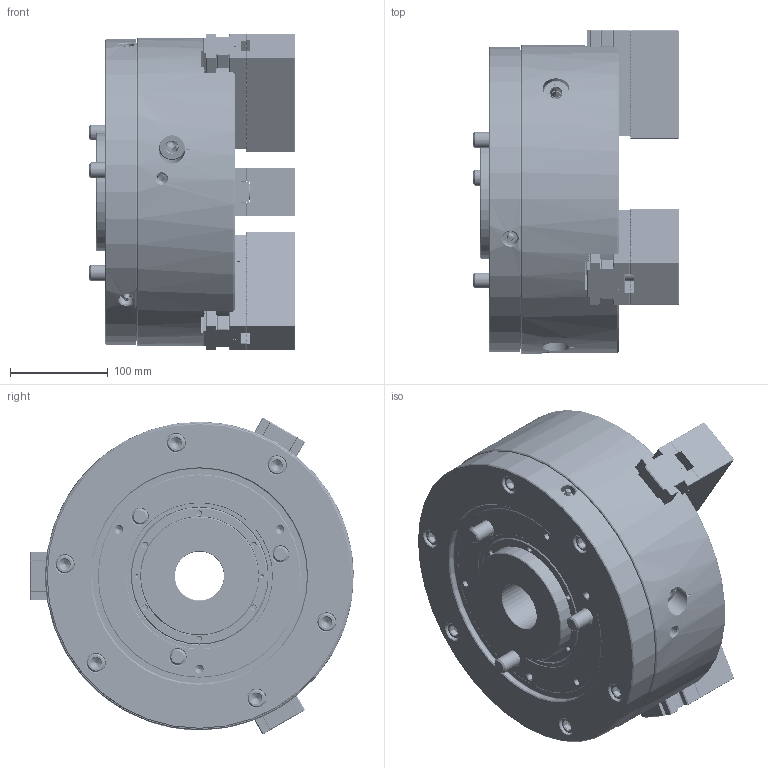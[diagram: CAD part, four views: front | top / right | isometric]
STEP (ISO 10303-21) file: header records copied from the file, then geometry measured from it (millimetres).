
FILE_DESCRIPTION (( 'STEP AP214' ), '1' );
FILE_NAME ('QJR12_61P261583-3_OC.STEP', '2026-03-16T04:50:07', ( '' ), ( '' ), 'SwSTEP 2.0', 'SolidWorks 2022', '' );
FILE_SCHEMA (( 'AUTOMOTIVE_DESIGN' ));
Length unit declared in the file: millimetre
Products named in the file (7): DT1_QJR12_BASEJAW^DT1_QJR12; Copy of 0030116045^DT1_QJR12; DT1_QJR12_DRAWNUT^DT1_QJR12; DT1_QJR12_SOFTJAW^DT1_QJR12; QJR12_61P261583-3_OC; DT1_QJR12_M16x130^DT1_QJR12; DT1_QJR12_BASE^DT1_QJR12
Assembly tree (17 placements, depth 2):
  QJR12_61P261583-3_OC
    DT1_QJR12_DRAWNUT^DT1_QJR12
    DT1_QJR12_SOFTJAW^DT1_QJR12  x3
    DT1_QJR12_M16x130^DT1_QJR12  x3
    DT1_QJR12_BASEJAW^DT1_QJR12  x3
    DT1_QJR12_BASE^DT1_QJR12
    Copy of 0030116045^DT1_QJR12  x6
Bounding box: 210 x 330.08 x 323.52 mm (x, y, z)
Volume: 9956309.4 mm3; surface area: 780683 mm2
Topology: 17 solids, 101 shells, 9643 faces, 26562 edges, 17254 vertices
Faces by surface type: plane 6226, cylinder 1461, bspline 1051, cone 732, torus 107, sphere 66
Entity records: 248971 total; most frequent: CARTESIAN_POINT 101034, ORIENTED_EDGE 33136, DIRECTION 26163, EDGE_CURVE 16568, LINE 11043, VECTOR 11043, VERTEX_POINT 10789, AXIS2_PLACEMENT_3D 7560
